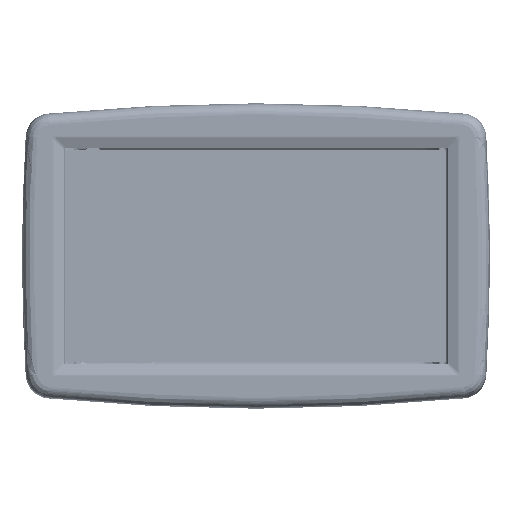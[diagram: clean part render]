
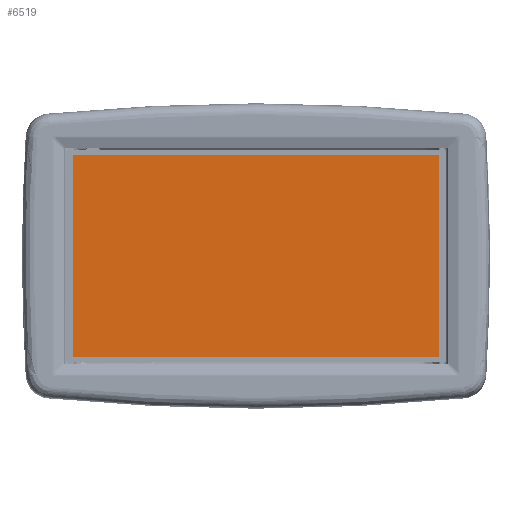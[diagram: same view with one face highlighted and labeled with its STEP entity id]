
A CAD part, front view. The second image highlights one B-rep face of the part: STEP entity #6519.
In plain terms, the highlighted free-form (B-spline) face has degree [1, 1] with [2, 2] control points.
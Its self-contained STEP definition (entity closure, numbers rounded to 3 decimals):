
#6519=ADVANCED_FACE('',(#10247),#52098,.T.);
#10247=FACE_OUTER_BOUND('',#13976,.T.);
#13976=EDGE_LOOP('',(#17977,#17978,#17979,#17980));
#17977=ORIENTED_EDGE('',*,*,#36749,.T.);
#17978=ORIENTED_EDGE('',*,*,#36752,.T.);
#17979=ORIENTED_EDGE('',*,*,#36754,.T.);
#17980=ORIENTED_EDGE('',*,*,#36755,.T.);
#36749=EDGE_CURVE('',#46211,#46210,#53366,.T.);
#36752=EDGE_CURVE('',#46210,#46212,#53369,.T.);
#36754=EDGE_CURVE('',#46212,#46213,#53371,.T.);
#36755=EDGE_CURVE('',#46213,#46211,#53372,.T.);
#46210=VERTEX_POINT('',#59278);
#46211=VERTEX_POINT('',#59279);
#46212=VERTEX_POINT('',#59280);
#46213=VERTEX_POINT('',#59281);
#52098=B_SPLINE_SURFACE_WITH_KNOTS('',1,1,((#59262,#59263),(#59264,#59265)),
.UNSPECIFIED.,.F.,.F.,.F.,(2,2),(2,2),(0.,148.58),(-81.82,0.),.UNSPECIFIED.);
#53366=B_SPLINE_CURVE_WITH_KNOTS('',1,(#59208,#59209),.UNSPECIFIED.,.F.,
.F.,(2,2),(0.,148.58),.UNSPECIFIED.);
#53369=B_SPLINE_CURVE_WITH_KNOTS('',1,(#59214,#59215),.UNSPECIFIED.,.F.,
.F.,(2,2),(0.,81.82),.UNSPECIFIED.);
#53371=B_SPLINE_CURVE_WITH_KNOTS('',1,(#59218,#59219),.UNSPECIFIED.,.F.,
.F.,(2,2),(0.,148.58),.UNSPECIFIED.);
#53372=B_SPLINE_CURVE_WITH_KNOTS('',1,(#59220,#59221),.UNSPECIFIED.,.F.,
.F.,(2,2),(0.,81.82),.UNSPECIFIED.);
#59208=CARTESIAN_POINT('',(74.309,-91.721,131.951));
#59209=CARTESIAN_POINT('',(-74.271,-91.721,131.951));
#59214=CARTESIAN_POINT('',(-74.271,-91.721,131.951));
#59215=CARTESIAN_POINT('',(-74.271,-91.721,50.131));
#59218=CARTESIAN_POINT('',(-74.271,-91.721,50.131));
#59219=CARTESIAN_POINT('',(74.309,-91.721,50.131));
#59220=CARTESIAN_POINT('',(74.309,-91.721,50.131));
#59221=CARTESIAN_POINT('',(74.309,-91.721,131.951));
#59262=CARTESIAN_POINT('',(-74.271,-91.721,50.131));
#59263=CARTESIAN_POINT('',(-74.271,-91.721,131.951));
#59264=CARTESIAN_POINT('',(74.309,-91.721,50.131));
#59265=CARTESIAN_POINT('',(74.309,-91.721,131.951));
#59278=CARTESIAN_POINT('',(-74.271,-91.721,131.951));
#59279=CARTESIAN_POINT('',(74.309,-91.721,131.951));
#59280=CARTESIAN_POINT('',(-74.271,-91.721,50.131));
#59281=CARTESIAN_POINT('',(74.309,-91.721,50.131));
